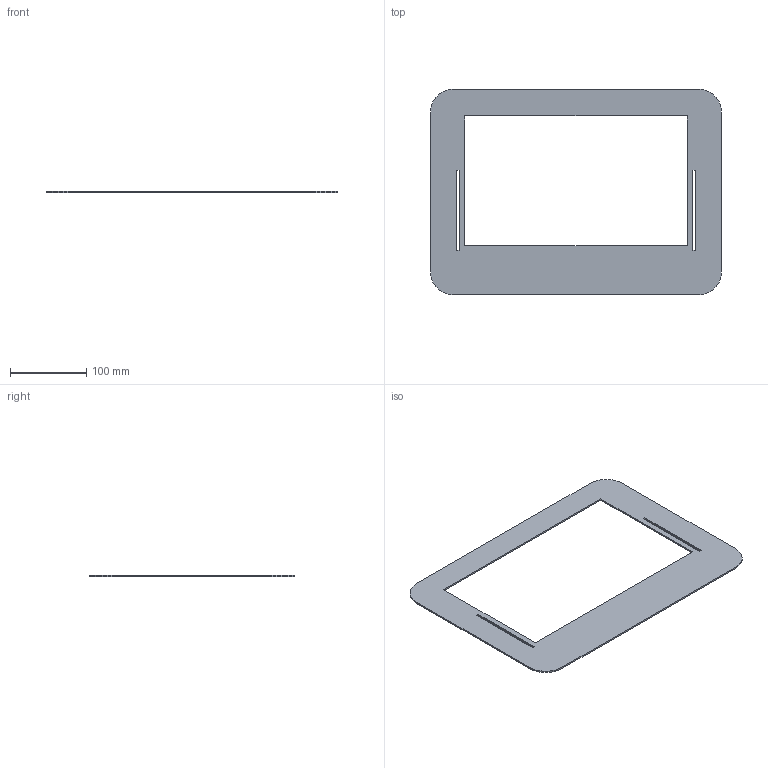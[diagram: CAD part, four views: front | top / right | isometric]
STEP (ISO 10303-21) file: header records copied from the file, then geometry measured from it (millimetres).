
FILE_DESCRIPTION(('Open CASCADE Model'),'2;1');
FILE_NAME('Open CASCADE Shape Model','2026-07-21T14:16:52',('Author'),( 'Open CASCADE'),'Open CASCADE STEP processor 7.9','Open CASCADE 7.9' ,'Unknown');
FILE_SCHEMA(('AUTOMOTIVE_DESIGN { 1 0 10303 214 1 1 1 1 }'));
Length unit declared in the file: millimetre
Products named in the file (1): Open CASCADE STEP translator 7.9 1
Bounding box: 381 x 269 x 2 mm (x, y, z)
Volume: 103232.9 mm3; surface area: 108437.9 mm2
Topology: 1 solids, 1 shells, 22 faces, 60 edges, 40 vertices
Faces by surface type: plane 18, cylinder 4
Entity records: 1458 total; most frequent: CARTESIAN_POINT 315, DIRECTION 182, ORIENTED_EDGE 120, PCURVE 120, DEFINITIONAL_REPRESENTATION 120, LINE 116, VECTOR 116, EDGE_CURVE 60
